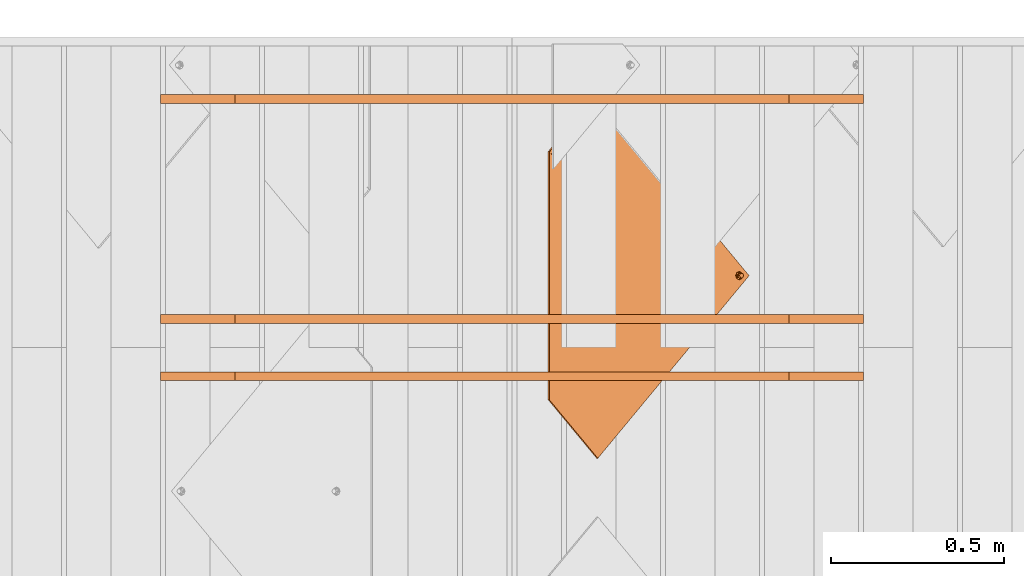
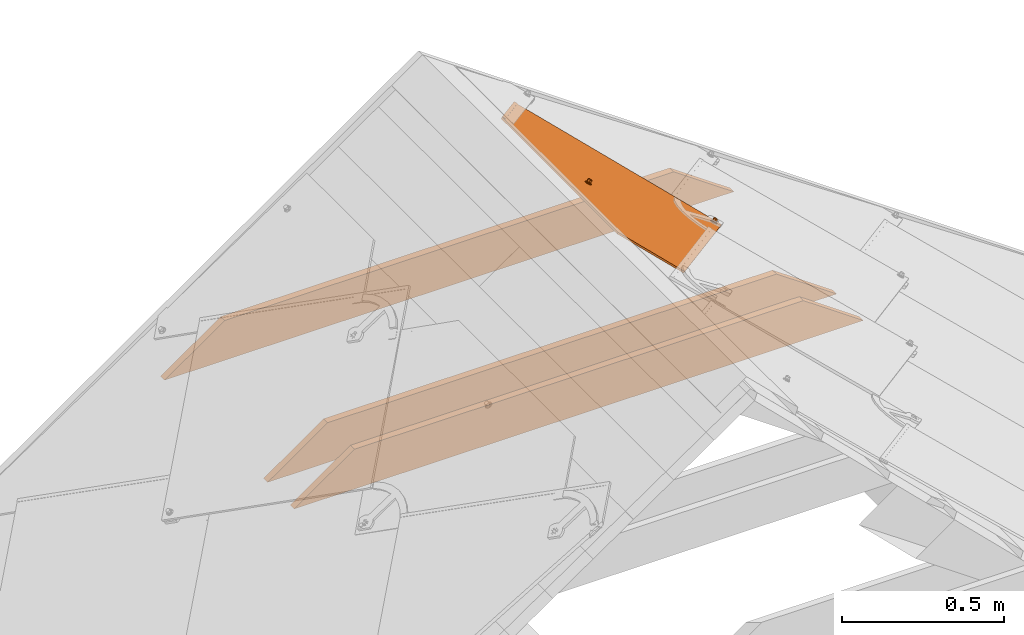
# One storey, part 93 of 151: 4 proxies, 1 element without a shape of its own.
"""IFC2X3 building model written with IfcOpenShell, lengths in millimetres."""

from ifc_helpers import new_model, entity, si_unit, converted_unit, derived_unit, direction, frame, origin, place, context, subcontext, project, spatial, polyline, outline, extrude, faceted_brep, source, transform, mapped, material, material_list, type_object, type_shapes, element, aggregate, save


model = new_model("IFC2X3")

# Units and contexts
model_context = context("Model", 3, precision=0.01, world=origin(), true_north=direction((6.12303176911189e-17, 1.0)))
body_context = subcontext(model_context, "Body", "Model", "MODEL_VIEW")
ifc_project = project(units=[si_unit("LENGTHUNIT", "METRE", prefix="MILLI"), si_unit("AREAUNIT", "SQUARE_METRE"), si_unit("VOLUMEUNIT", "CUBIC_METRE"), converted_unit("PLANEANGLEUNIT", "DEGREE", entity("IfcRatioMeasure", 0.0174532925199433), si_unit("PLANEANGLEUNIT", "RADIAN"), dimensions=[0, 0, 0, 0, 0, 0, 0]), si_unit("MASSUNIT", "GRAM", prefix="KILO"), derived_unit("MASSDENSITYUNIT", [(si_unit("MASSUNIT", "GRAM", prefix="KILO"), 1), (si_unit("LENGTHUNIT", "METRE"), -3)]), si_unit("TIMEUNIT", "SECOND"), si_unit("FREQUENCYUNIT", "HERTZ"), si_unit("THERMODYNAMICTEMPERATUREUNIT", "DEGREE_CELSIUS"), derived_unit("THERMALTRANSMITTANCEUNIT", [(si_unit("MASSUNIT", "GRAM", prefix="KILO"), 1), (si_unit("THERMODYNAMICTEMPERATUREUNIT", "KELVIN"), -1), (si_unit("TIMEUNIT", "SECOND"), -3)]), derived_unit("VOLUMETRICFLOWRATEUNIT", [(si_unit("LENGTHUNIT", "METRE"), 3), (si_unit("TIMEUNIT", "SECOND"), -1)]), si_unit("ELECTRICCURRENTUNIT", "AMPERE"), si_unit("ELECTRICVOLTAGEUNIT", "VOLT"), si_unit("POWERUNIT", "WATT"), si_unit("FORCEUNIT", "NEWTON", prefix="KILO"), si_unit("ILLUMINANCEUNIT", "LUX"), si_unit("LUMINOUSFLUXUNIT", "LUMEN"), si_unit("LUMINOUSINTENSITYUNIT", "CANDELA"), derived_unit("USERDEFINED", [(si_unit("MASSUNIT", "GRAM", prefix="KILO"), -1), (si_unit("LENGTHUNIT", "METRE"), -2), (si_unit("TIMEUNIT", "SECOND"), 3), (si_unit("LUMINOUSFLUXUNIT", "LUMEN"), 1)]), derived_unit("LINEARVELOCITYUNIT", [(si_unit("LENGTHUNIT", "METRE"), 1), (si_unit("TIMEUNIT", "SECOND"), -1)]), si_unit("PRESSUREUNIT", "PASCAL"), derived_unit("USERDEFINED", [(si_unit("LENGTHUNIT", "METRE"), -2), (si_unit("MASSUNIT", "GRAM", prefix="KILO"), 1), (si_unit("TIMEUNIT", "SECOND"), -2)])], contexts=[model_context])

# Site, building, storey
site_placement = place(None, origin())
site = spatial("IfcSite", under=ifc_project, at=site_placement, Name="Default", CompositionType="ELEMENT")
building_placement = place(site_placement, origin())
building = spatial("IfcBuilding", under=site, at=building_placement, CompositionType="ELEMENT")
storey_placement = place(building_placement, origin())
storey = spatial("IfcBuildingStorey", under=building, at=storey_placement, Name="Level 1", CompositionType="ELEMENT", Elevation=0.0)

# Assembly, proxies
assembly_placement = place(storey_placement, origin())
assembly = element("IfcElementAssembly", 1, at=assembly_placement, inside=storey, Name="Structural Framing Assembly:Roof Construction Assembly", ObjectType="Structural Framing Assembly:Roof Construction Assembly", AssemblyPlace="NOTDEFINED", PredefinedType="USERDEFINED")
ifc_material_1 = material(Name="Wood - Generic - Wood For Showcase")
building_element_proxy_type_1 = type_object("IfcBuildingElementProxyType", Name="Structural Framing 296", PredefinedType="NOTDEFINED", material=ifc_material_1)
shared_shape_1 = source(origin(), body_context, "Body", "SweptSolid", [
    extrude(outline(polyline([(-1014.04699829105, -75.0), (1014.04699829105, -75.0), (799.824797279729, 75.0), (-799.824797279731, 75.0), (-1014.04699829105, -75.0)])), frame((1206.77890726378, 3760.55080214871, 2164.95664769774), z_axis=(0.0, 1.0, 0.0), x_axis=(-1.0, 0.0, 0.0)), (0.0, 0.0, 1.0), 24.9999999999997),
])
type_shapes(building_element_proxy_type_1, [shared_shape_1])
proxy_1_placement = place(assembly_placement, frame((57.4878711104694, 0.0, 0.0)))
proxy_1 = element("IfcBuildingElementProxy", 2, at=proxy_1_placement, type_object=building_element_proxy_type_1, material=ifc_material_1, Name="Structural Framing 296:Structural Framing 296", ObjectType="Structural Framing 296:Structural Framing 296", context=body_context, shape_type="MappedRepresentation", body=[
    mapped(shared_shape_1, transform((0.0, 0.0, 0.0), scale=1.0)),
])
building_element_proxy_type_2 = type_object("IfcBuildingElementProxyType", Name="Structural Framing 296", PredefinedType="NOTDEFINED", material=ifc_material_1)
shared_shape_2 = source(origin(), body_context, "Body", "SweptSolid", [
    extrude(outline(polyline([(-1014.04699829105, -75.0), (1014.04699829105, -75.0), (799.824797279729, 75.0), (-799.824797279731, 75.0), (-1014.04699829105, -75.0)])), frame((1206.77890726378, 3760.55080214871, 2164.95664769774), z_axis=(0.0, 1.0, 0.0), x_axis=(-1.0, 0.0, 0.0)), (0.0, 0.0, 1.0), 24.9999999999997),
])
type_shapes(building_element_proxy_type_2, [shared_shape_2])
proxy_2_placement = place(assembly_placement, frame((57.4878711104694, -800.0, 0.0)))
proxy_2 = element("IfcBuildingElementProxy", 3, at=proxy_2_placement, type_object=building_element_proxy_type_2, material=ifc_material_1, Name="Structural Framing 297:Structural Framing 296", ObjectType="Structural Framing 297:Structural Framing 296", context=body_context, shape_type="MappedRepresentation", body=[
    mapped(shared_shape_2, transform((0.0, 0.0, 0.0), scale=1.0)),
])
building_element_proxy_type_3 = type_object("IfcBuildingElementProxyType", Name="Structural Framing 296", PredefinedType="NOTDEFINED", material=ifc_material_1)
shared_shape_3 = source(origin(), body_context, "Body", "SweptSolid", [
    extrude(outline(polyline([(-1014.04699829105, -75.0), (1014.04699829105, -75.0), (799.824797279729, 75.0), (-799.824797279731, 75.0), (-1014.04699829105, -75.0)])), frame((1206.77890726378, 2325.55080214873, 2164.95664769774), z_axis=(0.0, 1.0, 0.0), x_axis=(-1.0, 0.0, 0.0)), (0.0, 0.0, 1.0), 25.0),
])
type_shapes(building_element_proxy_type_3, [shared_shape_3])
proxy_3_placement = place(assembly_placement, frame((57.4878711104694, 800.0, 0.0)))
proxy_3 = element("IfcBuildingElementProxy", 4, at=proxy_3_placement, type_object=building_element_proxy_type_3, material=ifc_material_1, Name="Structural Framing 298:Structural Framing 296", ObjectType="Structural Framing 298:Structural Framing 296", context=body_context, shape_type="MappedRepresentation", body=[
    mapped(shared_shape_3, transform((0.0, 0.0, 0.0), scale=1.0)),
])
aggregate(assembly, [proxy_1, proxy_2, proxy_3])

# Proxy
ifc_material_2 = material(Name="Rubber - Sunstyle - Black")
ifc_material_3 = material(Name="Glass - Sunstyle - Tainted Black")
ifc_material_list_1 = material_list([ifc_material_2, ifc_material_3])
ifc_material_list_2 = material_list([ifc_material_2, ifc_material_3])
building_element_proxy_type_4 = type_object("IfcBuildingElementProxyType", Name="Shingle Top - Black", PredefinedType="NOTDEFINED", material=ifc_material_list_2)
shared_shape_4 = source(origin(), body_context, "Body", "Brep", [
    faceted_brep([(-518.396436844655, -96.9865733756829, 16.4476231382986), (-518.396436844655, -96.9614556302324, 17.9474128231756), (-526.881123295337, -88.4767691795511, 17.8053154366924), (-526.881123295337, -88.5018869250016, 16.3055257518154), (-376.996804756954, 61.3404039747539, 13.7960402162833), (-368.512118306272, 52.8557175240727, 13.9381376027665), (-376.996804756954, 61.3655217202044, 15.2958299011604), (-368.512118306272, 52.8808352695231, 15.4379272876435)], [[[0, 1, 2, 3]], [[0, 3, 4, 5]], [[3, 2, 6, 4]], [[2, 1, 7, 6]], [[1, 0, 5, 7]], [[5, 4, 6, 7]]]),
    faceted_brep([(0.166366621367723, -33.6374645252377, -4.47296585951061), (-5.6078362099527, -36.9707346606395, -4.4171418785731), (-5.60783620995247, -36.6024255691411, 17.5747274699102), (0.166366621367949, -33.2691554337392, 17.5189034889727), (-5.60783620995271, -43.6372749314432, -4.30549391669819), (-5.60783620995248, -43.2689658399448, 17.6863754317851), (0.166366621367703, -46.9705450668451, -4.24966993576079), (0.166366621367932, -46.6022359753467, 17.7421994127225), (5.94056945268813, -43.6372749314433, -4.30549391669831), (5.94056945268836, -43.2689658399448, 17.686375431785), (5.94056945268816, -36.9707346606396, -4.41714187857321), (5.94056945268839, -36.6024255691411, 17.5747274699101), (-8.43733754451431, -48.5381935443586, 17.774621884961), (0.16636662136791, -52.1014648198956, 17.8342978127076), (-12.0011084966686, -39.9356957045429, 17.6305514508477), (-8.43733754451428, -31.3331978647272, 17.4864810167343), (0.166366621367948, -27.7699265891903, 17.4268050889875), (8.77007078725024, -31.3331978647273, 17.4864810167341), (12.3338417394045, -39.935695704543, 17.6305514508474), (8.77007078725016, -48.5381935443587, 17.7746218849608), (-11.1578780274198, -37.6406185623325, 19.9433933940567), (-9.59010793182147, -39.8646808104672, 21.8708760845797), (0.166366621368, -32.5516055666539, 22.5035764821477), (0.166366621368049, -31.3111079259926, 21.9232298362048), (0.166366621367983, -29.1535570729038, 20.9138547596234), (0.166366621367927, -51.5454208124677, 19.1093557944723), (0.166366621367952, -50.6018442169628, 21.273060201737), (0.166366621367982, -47.1524685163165, 22.7481046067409), (0.166366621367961, -28.2829626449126, 18.7197675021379), (-6.15687907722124, -43.5022527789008, 22.6869725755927), (-6.15687907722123, -36.2018213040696, 22.5647085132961), (11.4906112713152, -42.1520387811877, 20.0189484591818), (10.0152467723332, -40.9390872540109, 21.7920079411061), (6.48961231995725, -36.2018213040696, 22.564708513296), (6.48961231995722, -43.5022527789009, 22.6869725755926), (-6.15687907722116, -43.3682243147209, 30.68986075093), (0.166366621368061, -47.0184400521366, 30.7509927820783), (0.166366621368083, -39.7180085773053, 30.6287287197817), (-6.15687907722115, -36.0677928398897, 30.5675966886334), (6.48961231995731, -43.368224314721, 30.6898607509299), (6.48961231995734, -36.0677928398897, 30.5675966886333), (0.166366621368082, -32.417577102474, 30.5064646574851), (0.166366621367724, -40.3040047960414, -4.36131789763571)], [[[0, 1, 2, 3]], [[1, 4, 5, 2]], [[4, 6, 7, 5]], [[6, 8, 9, 7]], [[8, 10, 11, 9]], [[10, 0, 3, 11]], [[12, 7, 13]], [[7, 12, 5]], [[14, 5, 12]], [[5, 14, 2]], [[15, 2, 14]], [[3, 2, 15]], [[15, 16, 3]], [[16, 17, 3]], [[11, 3, 17]], [[11, 17, 18]], [[9, 11, 18]], [[18, 19, 9]], [[7, 9, 19]], [[19, 13, 7]], [[20, 14, 12]], [[21, 22, 23, 24]], [[24, 20, 21]], [[25, 20, 12]], [[26, 27, 21]], [[15, 14, 20]], [[12, 13, 25]], [[20, 28, 15]], [[28, 20, 24]], [[21, 27, 29]], [[21, 29, 30]], [[26, 21, 20]], [[20, 25, 26]], [[15, 28, 16]], [[21, 30, 22]], [[31, 18, 17]], [[28, 31, 17]], [[32, 27, 26]], [[26, 31, 32]], [[26, 25, 31]], [[25, 19, 31]], [[17, 16, 28]], [[31, 19, 18]], [[24, 31, 28]], [[33, 34, 32]], [[23, 22, 33]], [[24, 32, 31]], [[27, 32, 34]], [[32, 23, 33]], [[19, 25, 13]], [[32, 24, 23]], [[35, 36, 37]], [[37, 38, 35]], [[36, 39, 37]], [[40, 37, 39]], [[37, 40, 41]], [[37, 41, 38]], [[42, 6, 4]], [[4, 1, 42]], [[1, 0, 42]], [[42, 8, 6]], [[0, 10, 42]], [[8, 42, 10]], [[22, 30, 38, 41]], [[30, 29, 35, 38]], [[29, 27, 36, 35]], [[27, 34, 39, 36]], [[34, 33, 40, 39]], [[33, 22, 41, 40]]]),
    faceted_brep([(0.0, -573.927138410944, 4.00636906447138), (-5.77420283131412, -577.260408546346, 4.0621930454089), (-5.77420283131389, -576.892099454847, 26.0540623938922), (0.0, -573.558829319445, 25.9982384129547), (-5.77420283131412, -583.926948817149, 4.1738410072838), (-5.7742028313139, -583.558639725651, 26.1657103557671), (0.0, -587.260218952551, 4.2296649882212), (0.0, -586.891909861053, 26.2215343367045), (5.77420283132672, -583.926948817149, 4.17384100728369), (5.77420283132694, -583.558639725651, 26.165710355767), (5.77420283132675, -577.260408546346, 4.06219304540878), (5.77420283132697, -576.892099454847, 26.0540623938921), (-8.60370416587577, -588.827867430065, 26.253956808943), (0.0, -592.391138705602, 26.3136327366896), (-12.1674751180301, -580.225369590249, 26.1098863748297), (-8.60370416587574, -571.622871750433, 25.9658159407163), (0.0, -568.059600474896, 25.9061400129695), (8.60370416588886, -571.622871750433, 25.9658159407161), (12.1674751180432, -580.225369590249, 26.1098863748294), (8.60370416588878, -588.827867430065, 26.2539568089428), (-11.3242446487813, -577.930292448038, 28.4227283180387), (-9.75647455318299, -580.154354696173, 30.3502110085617), (0.0, -572.84127945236, 30.9829114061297), (0.0, -571.600781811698, 30.4025647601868), (0.0, -569.44323095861, 29.3931896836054), (0.0, -591.835094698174, 27.5886907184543), (0.0, -590.891518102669, 29.752395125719), (0.0, -587.442142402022, 31.227439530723), (0.0, -568.572636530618, 27.1991024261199), (-6.32324569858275, -583.791926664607, 31.1663074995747), (-6.32324569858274, -576.491495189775, 31.0440434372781), (11.3242446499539, -582.441712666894, 28.4982833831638), (9.84888015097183, -581.228761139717, 30.2713428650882), (6.32324569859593, -576.491495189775, 31.044043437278), (6.32324569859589, -583.791926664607, 31.1663074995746), (-6.32324569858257, -583.657898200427, 39.169195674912), (0.0, -587.308113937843, 39.2303277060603), (0.0, -580.007682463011, 39.1080636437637), (-6.32324569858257, -576.357466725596, 39.0469316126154), (6.32324569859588, -583.657898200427, 39.1691956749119), (6.32324569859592, -576.357466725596, 39.0469316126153), (0.0, -572.70725098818, 38.9857995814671), (0.0, -580.593678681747, 4.11801702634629)], [[[0, 1, 2, 3]], [[1, 4, 5, 2]], [[4, 6, 7, 5]], [[6, 8, 9, 7]], [[8, 10, 11, 9]], [[10, 0, 3, 11]], [[12, 7, 13]], [[7, 12, 5]], [[14, 5, 12]], [[5, 14, 2]], [[15, 2, 14]], [[3, 2, 15]], [[15, 16, 3]], [[16, 17, 3]], [[11, 3, 17]], [[11, 17, 18]], [[9, 11, 18]], [[18, 19, 9]], [[7, 9, 19]], [[19, 13, 7]], [[20, 14, 12]], [[21, 22, 23, 24]], [[24, 20, 21]], [[25, 20, 12]], [[26, 27, 21]], [[15, 14, 20]], [[12, 13, 25]], [[20, 28, 15]], [[28, 20, 24]], [[21, 27, 29]], [[21, 29, 30]], [[26, 21, 20]], [[20, 25, 26]], [[15, 28, 16]], [[21, 30, 22]], [[31, 18, 17]], [[28, 31, 17]], [[32, 27, 26]], [[26, 31, 32]], [[26, 25, 31]], [[25, 19, 31]], [[17, 16, 28]], [[31, 19, 18]], [[24, 31, 28]], [[33, 34, 32]], [[23, 22, 33]], [[24, 32, 31]], [[27, 32, 34]], [[32, 23, 33]], [[19, 25, 13]], [[32, 24, 23]], [[35, 36, 37]], [[37, 38, 35]], [[36, 39, 37]], [[40, 37, 39]], [[37, 40, 41]], [[37, 41, 38]], [[42, 6, 4]], [[4, 1, 42]], [[1, 0, 42]], [[42, 8, 6]], [[0, 10, 42]], [[8, 42, 10]], [[22, 30, 38, 41]], [[30, 29, 35, 38]], [[29, 27, 36, 35]], [[27, 34, 39, 36]], [[34, 33, 40, 39]], [[33, 22, 41, 40]]]),
    faceted_brep([(518.482751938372, -96.8754983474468, 17.9260478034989), (526.967438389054, -88.3908118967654, 17.7839504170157), (526.967438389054, -88.3656941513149, 19.2837401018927), (518.482751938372, -96.8503806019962, 19.4258374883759), (349.749400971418, 71.8105397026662, 15.1009763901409), (358.234087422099, 80.2952261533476, 14.9588790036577), (358.234087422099, 80.3203438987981, 16.4586686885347), (349.749400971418, 71.8356574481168, 16.6007660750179)], [[[0, 1, 2, 3]], [[1, 0, 4, 5]], [[2, 1, 5, 6]], [[3, 2, 6, 7]], [[0, 3, 7, 4]], [[4, 7, 6, 5]]]),
    faceted_brep([(358.234087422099, 80.2952261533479, 14.9588790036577), (6.94661128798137, -35.8890860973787, 16.9046771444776), (7.74581466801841, -37.8182632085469, 16.9369860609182), (5.67526230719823, -34.2324641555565, 16.8769328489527), (8.01840805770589, -39.8885252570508, 16.9716577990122), (7.74581466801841, -41.9587873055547, 17.0063295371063), (6.94661128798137, -43.8879644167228, 17.0386384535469), (526.967438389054, -88.3908118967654, 17.7839504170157), (4.01840805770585, -32.9612934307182, 16.855643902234), (2.08896041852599, -32.1622021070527, 16.8422611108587), (0.0184080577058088, -31.8896469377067, 16.8376964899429), (-358.233442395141, 80.2952261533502, 14.9588790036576), (-2.05214430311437, -32.1622021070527, 16.8422611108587), (-3.98159194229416, -32.9612934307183, 16.855643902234), (-5.63844619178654, -34.2324641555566, 16.8769328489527), (-6.90979517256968, -35.8890860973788, 16.9046771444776), (-7.70899855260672, -37.8182632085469, 16.9369860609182), (-7.98159194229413, -39.8885252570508, 16.9716577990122), (-7.70899855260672, -41.9587873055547, 17.0063295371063), (-6.90979517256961, -43.8879644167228, 17.0386384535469), (-526.966793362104, -88.390811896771, 17.7839504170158), (-5.63844619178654, -45.544586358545, 17.0663827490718), (-5.6568542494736, -574.226981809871, 25.9204974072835), (-6.92820323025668, -575.883603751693, 25.9482417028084), (-7.72740661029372, -577.812780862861, 25.980550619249), (-8.0, -579.883042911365, 26.015222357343), (-7.72740661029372, -581.953304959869, 26.049894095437), (0.000322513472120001, -615.210165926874, 26.6068637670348), (7.72740661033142, -581.953304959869, 26.049894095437), (6.92820323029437, -583.882482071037, 26.0822030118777), (5.65685424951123, -585.53910401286, 26.1099473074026), (4.0, -586.810274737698, 26.1312362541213), (2.070552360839, -587.609366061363, 26.1446190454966), (0.0, -587.881921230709, 26.1491836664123), (-2.0705523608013, -587.609366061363, 26.1446190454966), (-4.0, -586.810274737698, 26.1312362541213), (-5.65685424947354, -585.53910401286, 26.1099473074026), (-6.92820323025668, -583.882482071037, 26.0822030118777), (-4.0, -572.955811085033, 25.8992084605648), (-3.98159194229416, -46.8157570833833, 17.0876716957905), (-2.07055236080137, -572.156719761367, 25.8858256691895), (-2.05214430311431, -47.614848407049, 17.1010544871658), (0.0, -571.884164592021, 25.8812610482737), (0.0184080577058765, -47.8874035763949, 17.1056191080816), (2.07055236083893, -572.156719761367, 25.8858256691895), (2.08896041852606, -47.6148484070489, 17.1010544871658), (4.0, -572.955811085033, 25.8992084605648), (4.01840805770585, -46.8157570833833, 17.0876716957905), (5.65685424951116, -574.226981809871, 25.9204974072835), (5.67526230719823, -45.544586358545, 17.0663827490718), (6.92820323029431, -575.883603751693, 25.9482417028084), (7.72740661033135, -577.812780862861, 25.980550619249), (8.0, -579.883042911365, 26.015222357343), (-358.233442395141, 80.1947551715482, 8.9597202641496), (-6.90979517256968, -35.9895570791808, 10.9055184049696), (-7.70899855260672, -37.9187341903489, 10.9378273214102), (-5.63844619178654, -34.3329351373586, 10.8777741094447), (-7.98159194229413, -39.9889962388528, 10.9724990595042), (-7.70899855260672, -42.0592582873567, 11.0071707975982), (-6.90979517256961, -43.9884353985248, 11.0394797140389), (-526.966793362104, -88.4912828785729, 11.7847916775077), (-3.98159194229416, -33.0617644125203, 10.856485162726), (-2.05214430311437, -32.2626730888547, 10.8431023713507), (0.0184080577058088, -31.9901179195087, 10.8385377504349), (358.234087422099, 80.1947551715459, 8.95972026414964), (2.08896041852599, -32.2626730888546, 10.8431023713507), (4.01840805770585, -33.0617644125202, 10.856485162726), (5.67526230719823, -34.3329351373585, 10.8777741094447), (6.94661128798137, -35.9895570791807, 10.9055184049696), (7.74581466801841, -37.9187341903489, 10.9378273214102), (8.01840805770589, -39.9889962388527, 10.9724990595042), (7.74581466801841, -42.0592582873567, 11.0071707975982), (6.94661128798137, -43.9884353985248, 11.0394797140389), (526.967438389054, -88.4912828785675, 11.7847916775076), (5.67526230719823, -45.645057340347, 11.0672240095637), (5.65685424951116, -574.327452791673, 19.9213386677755), (6.92820323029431, -575.984074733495, 19.9490829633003), (7.72740661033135, -577.913251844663, 19.981391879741), (8.0, -579.983513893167, 20.016063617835), (7.72740661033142, -582.053775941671, 20.050735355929), (0.000322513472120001, -615.310636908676, 20.6077050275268), (-7.72740661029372, -582.053775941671, 20.050735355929), (-6.92820323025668, -583.982953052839, 20.0830442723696), (-5.65685424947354, -585.639574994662, 20.1107885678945), (-4.0, -586.9107457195, 20.1320775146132), (-2.0705523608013, -587.709837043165, 20.1454603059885), (0.0, -587.982392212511, 20.1500249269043), (2.070552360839, -587.709837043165, 20.1454603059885), (4.0, -586.9107457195, 20.1320775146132), (5.65685424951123, -585.639574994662, 20.1107885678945), (6.92820323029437, -583.982953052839, 20.0830442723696), (4.01840805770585, -46.9162280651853, 11.0885129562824), (4.0, -573.056282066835, 19.9000497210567), (2.08896041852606, -47.7153193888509, 11.1018957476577), (2.07055236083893, -572.257190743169, 19.8866669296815), (0.0184080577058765, -47.9878745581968, 11.1064603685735), (0.0, -571.984635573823, 19.8821023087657), (-2.05214430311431, -47.7153193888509, 11.1018957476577), (-2.07055236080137, -572.257190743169, 19.8866669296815), (-3.98159194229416, -46.9162280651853, 11.0885129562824), (-4.0, -573.056282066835, 19.9000497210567), (-5.63844619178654, -45.645057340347, 11.0672240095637), (-5.6568542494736, -574.327452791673, 19.9213386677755), (-6.92820323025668, -575.984074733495, 19.9490829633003), (-7.72740661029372, -577.913251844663, 19.981391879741), (-8.0, -579.983513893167, 20.016063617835)], [[[0, 1, 2]], [[1, 0, 3]], [[0, 2, 4]], [[4, 5, 0]], [[5, 6, 0]], [[7, 0, 6]], [[8, 3, 0]], [[9, 8, 0]], [[10, 9, 0]], [[0, 11, 10]], [[12, 10, 11]], [[13, 12, 11]], [[14, 13, 11]], [[11, 15, 14]], [[15, 11, 16]], [[16, 11, 17]], [[11, 18, 17]], [[18, 11, 19]], [[11, 20, 19]], [[19, 20, 21]], [[20, 22, 21]], [[23, 22, 20]], [[24, 23, 20]], [[24, 20, 25]], [[26, 25, 20]], [[27, 26, 20]], [[7, 28, 27]], [[29, 27, 28]], [[27, 29, 30]], [[30, 31, 27]], [[31, 32, 27]], [[27, 32, 33]], [[27, 33, 34]], [[34, 35, 27]], [[27, 35, 36]], [[36, 37, 27]], [[37, 26, 27]], [[38, 21, 22]], [[38, 39, 21]], [[38, 40, 39]], [[40, 41, 39]], [[40, 42, 41]], [[41, 42, 43]], [[44, 43, 42]], [[44, 45, 43]], [[45, 44, 46]], [[46, 47, 45]], [[46, 48, 47]], [[48, 49, 47]], [[50, 7, 48]], [[48, 7, 49]], [[7, 50, 51]], [[7, 51, 52]], [[52, 28, 7]], [[7, 6, 49]], [[53, 54, 55]], [[54, 53, 56]], [[53, 55, 57]], [[58, 53, 57]], [[59, 53, 58]], [[60, 53, 59]], [[61, 56, 53]], [[62, 61, 53]], [[53, 63, 62]], [[63, 53, 64]], [[65, 63, 64]], [[66, 65, 64]], [[64, 67, 66]], [[67, 64, 68]], [[68, 64, 69]], [[70, 69, 64]], [[71, 70, 64]], [[72, 71, 64]], [[72, 64, 73]], [[72, 73, 74]], [[74, 73, 75]], [[73, 76, 75]], [[76, 73, 77]], [[77, 73, 78]], [[79, 78, 73]], [[79, 73, 80]], [[60, 81, 80]], [[80, 81, 82]], [[80, 82, 83]], [[83, 84, 80]], [[84, 85, 80]], [[85, 86, 80]], [[80, 86, 87]], [[80, 87, 88]], [[80, 88, 89]], [[79, 80, 90]], [[80, 89, 90]], [[75, 91, 74]], [[75, 92, 91]], [[92, 93, 91]], [[93, 92, 94]], [[93, 94, 95]], [[96, 95, 94]], [[97, 95, 96]], [[96, 98, 97]], [[98, 99, 97]], [[98, 100, 99]], [[100, 101, 99]], [[100, 102, 101]], [[60, 101, 102]], [[103, 60, 102]], [[103, 104, 60]], [[104, 105, 60]], [[105, 81, 60]], [[59, 101, 60]], [[27, 20, 60, 80]], [[7, 27, 80, 73]], [[0, 7, 73, 64]], [[25, 105, 104, 24]], [[24, 104, 103, 23]], [[38, 22, 102, 100]], [[102, 22, 23, 103]], [[40, 38, 100, 98]], [[40, 98, 96, 42]], [[42, 96, 94, 44]], [[44, 94, 92, 46]], [[50, 48, 75, 76]], [[75, 48, 46, 92]], [[51, 50, 76, 77]], [[51, 77, 78, 52]], [[52, 78, 79, 28]], [[28, 79, 90, 29]], [[31, 30, 89, 88]], [[29, 90, 89, 30]], [[87, 32, 31, 88]], [[32, 87, 86, 33]], [[34, 33, 86, 85]], [[34, 85, 84, 35]], [[37, 36, 83, 82]], [[35, 84, 83, 36]], [[37, 82, 81, 26]], [[26, 81, 105, 25]], [[17, 57, 55, 16]], [[16, 55, 54, 15]], [[13, 14, 56, 61]], [[56, 14, 15, 54]], [[12, 13, 61, 62]], [[12, 62, 63, 10]], [[10, 63, 65, 9]], [[9, 65, 66, 8]], [[1, 3, 67, 68]], [[67, 3, 8, 66]], [[2, 1, 68, 69]], [[2, 69, 70, 4]], [[4, 70, 71, 5]], [[5, 71, 72, 6]], [[47, 49, 74, 91]], [[74, 49, 6, 72]], [[45, 47, 91, 93]], [[45, 93, 95, 43]], [[43, 95, 97, 41]], [[41, 97, 99, 39]], [[19, 21, 101, 59]], [[101, 21, 39, 99]], [[18, 19, 59, 58]], [[18, 58, 57, 17]], [[11, 0, 64, 53]], [[20, 11, 53, 60]]]),
])
type_shapes(building_element_proxy_type_4, [shared_shape_4])
proxy_4_placement = place(storey_placement, frame((1429.25691597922, 3263.03873209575, 2714.99202663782), z_axis=(0.573576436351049, 0.0, 0.81915204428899), x_axis=(0.0, 1.0, 0.0)))
element("IfcBuildingElementProxy", 5, at=proxy_4_placement, inside=storey, type_object=building_element_proxy_type_4, material=ifc_material_list_1, Name="Roofing_Panels_SunStyle_Tile_Shingle-Top:Shingle Top - Black", ObjectType="Roofing_Panels_SunStyle_Tile_Shingle-Top:Shingle Top - Black", context=body_context, shape_type="MappedRepresentation", body=[
    mapped(shared_shape_4, transform((0.0, 0.0, 0.0), scale=1.0)),
])

save(model, "model.ifc")
